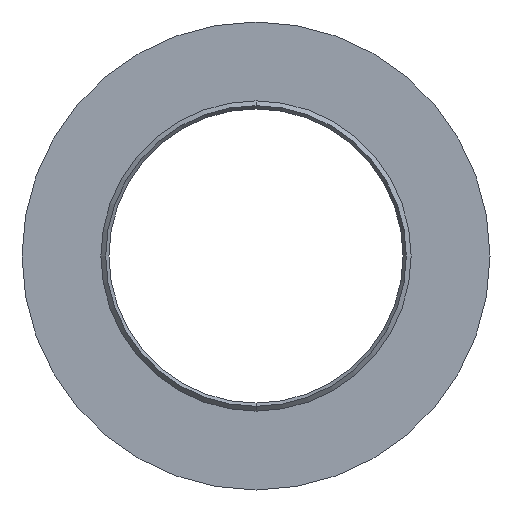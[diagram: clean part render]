
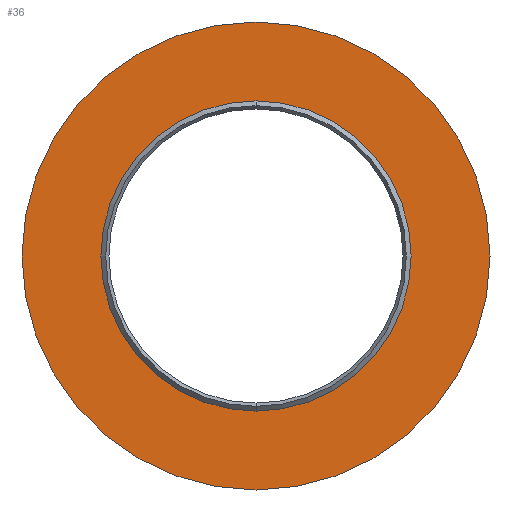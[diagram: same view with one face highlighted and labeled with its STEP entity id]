
A CAD part, front view. The second image highlights one B-rep face of the part: STEP entity #36.
In plain terms, the highlighted planar face has unit normal (0, -1, 0).
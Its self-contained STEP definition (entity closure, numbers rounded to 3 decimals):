
#16 = AXIS2_PLACEMENT_3D ( 'NONE', #174, #487, #153 ) ;
#36 = ADVANCED_FACE ( 'NONE', ( #152, #163 ), #180, .F. ) ;
#41 = AXIS2_PLACEMENT_3D ( 'NONE', #328, #474, #96 ) ;
#44 = AXIS2_PLACEMENT_3D ( 'NONE', #100, #99, #94 ) ;
#50 = CIRCLE ( 'NONE', #81, 11.6 ) ;
#81 = AXIS2_PLACEMENT_3D ( 'NONE', #299, #295, #288 ) ;
#92 = CARTESIAN_POINT ( 'NONE',  ( 0., -6., 17.5 ) ) ;
#94 = DIRECTION ( 'NONE',  ( 0., 0., -1. ) ) ;
#96 = DIRECTION ( 'NONE',  ( 0., 0., 1. ) ) ;
#99 = DIRECTION ( 'NONE',  ( 0., -1., 0. ) ) ;
#100 = CARTESIAN_POINT ( 'NONE',  ( 0., -6., 0. ) ) ;
#105 = CIRCLE ( 'NONE', #44, 17.5 ) ;
#113 = CARTESIAN_POINT ( 'NONE',  ( 0., -6., 11.6 ) ) ;
#152 = FACE_BOUND ( 'NONE', #265, .T. ) ;
#153 = DIRECTION ( 'NONE',  ( 0., 0., -1. ) ) ;
#163 = FACE_OUTER_BOUND ( 'NONE', #264, .T. ) ;
#174 = CARTESIAN_POINT ( 'NONE',  ( 0., -6., 0. ) ) ;
#180 = PLANE ( 'NONE',  #185 ) ;
#185 = AXIS2_PLACEMENT_3D ( 'NONE', #337, #228, #215 ) ;
#215 = DIRECTION ( 'NONE',  ( 0., 0., 1. ) ) ;
#218 = ORIENTED_EDGE ( 'NONE', *, *, #361, .T. ) ;
#228 = DIRECTION ( 'NONE',  ( 0., 1., 0. ) ) ;
#241 = VERTEX_POINT ( 'NONE', #418 ) ;
#264 = EDGE_LOOP ( 'NONE', ( #358, #218 ) ) ;
#265 = EDGE_LOOP ( 'NONE', ( #367, #360 ) ) ;
#288 = DIRECTION ( 'NONE',  ( 0., 0., 1. ) ) ;
#295 = DIRECTION ( 'NONE',  ( 0., 1., 0. ) ) ;
#296 = EDGE_CURVE ( 'NONE', #241, #445, #50, .T. ) ;
#298 = VERTEX_POINT ( 'NONE', #310 ) ;
#299 = CARTESIAN_POINT ( 'NONE',  ( 0., -6., 0. ) ) ;
#310 = CARTESIAN_POINT ( 'NONE',  ( 0., -6., -17.5 ) ) ;
#328 = CARTESIAN_POINT ( 'NONE',  ( 0., -6., 0. ) ) ;
#337 = CARTESIAN_POINT ( 'NONE',  ( -11.1, -6., 0. ) ) ;
#358 = ORIENTED_EDGE ( 'NONE', *, *, #419, .T. ) ;
#360 = ORIENTED_EDGE ( 'NONE', *, *, #296, .T. ) ;
#361 = EDGE_CURVE ( 'NONE', #482, #298, #105, .T. ) ;
#367 = ORIENTED_EDGE ( 'NONE', *, *, #383, .T. ) ;
#383 = EDGE_CURVE ( 'NONE', #445, #241, #472, .T. ) ;
#418 = CARTESIAN_POINT ( 'NONE',  ( 0., -6., -11.6 ) ) ;
#419 = EDGE_CURVE ( 'NONE', #298, #482, #427, .T. ) ;
#427 = CIRCLE ( 'NONE', #16, 17.5 ) ;
#445 = VERTEX_POINT ( 'NONE', #113 ) ;
#472 = CIRCLE ( 'NONE', #41, 11.6 ) ;
#474 = DIRECTION ( 'NONE',  ( 0., 1., 0. ) ) ;
#482 = VERTEX_POINT ( 'NONE', #92 ) ;
#487 = DIRECTION ( 'NONE',  ( 0., -1., 0. ) ) ;
